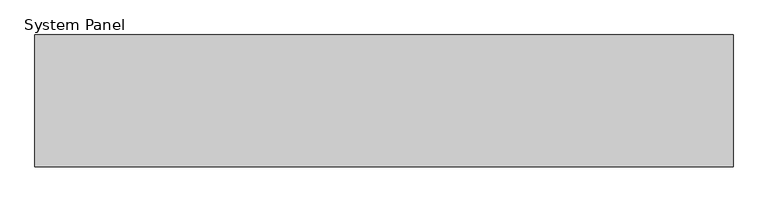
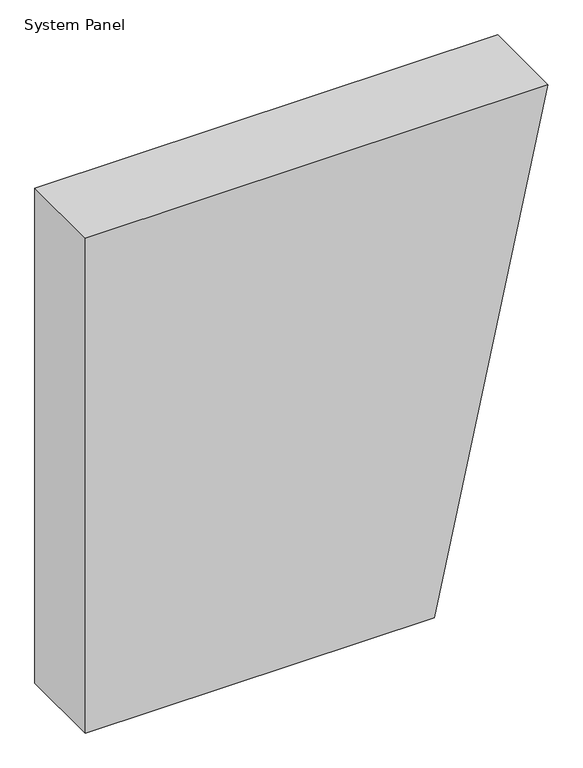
"""IFC4 building model written with IfcOpenShell, lengths in millimetres: plate geometry, System Panel : Equitilt 200mm Horizontal - Plain RHEA - EPS-FR."""

import ifcopenshell
import ifcopenshell.guid

model = None  # the IFC model being written
_history = None  # IfcOwnerHistory: only IFC2X3 demands one
_inside = {}  # id of a spatial element -> (the spatial element, [elements in it])
_under = {}  # id of a project, library or spatial element -> (it, [spatial elements below it])
_declared = {}  # id of a project -> (the project, [libraries it declares])
_typed = {}  # id of a type object -> (the type object, [elements of that type])
_made_of = {}  # id of a material, layer set ... -> (it, [elements and type objects made of it])


def new_model(schema):
    """Start an empty IFC model of exactly this schema.

    Asked for "IFC4X3", IfcOpenShell would pick the latest addendum, in which some entities
    have other attributes; the version numbers below select the first issue.
    IFC2X3 requires an IfcOwnerHistory on every rooted entity: one is made here for all.
    """
    global model, _history
    if schema == "IFC4X3":
        model = ifcopenshell.file(schema_version=(4, 3, 0, 0))
    else:
        model = ifcopenshell.file(schema=schema)
    _inside.clear()
    _under.clear()
    _declared.clear()
    _typed.clear()
    _made_of.clear()
    _history = None
    if model.schema == "IFC2X3":
        org = make("IfcOrganization", Name="unknown")
        user = make(
            "IfcPersonAndOrganization",
            ThePerson=make("IfcPerson", FamilyName="unknown"),
            TheOrganization=org,
        )
        app = make(
            "IfcApplication",
            ApplicationDeveloper=org,
            Version="unknown",
            ApplicationFullName="unknown",
            ApplicationIdentifier="unknown",
        )
        _history = make(
            "IfcOwnerHistory",
            OwningUser=user,
            OwningApplication=app,
            ChangeAction="ADDED",
            CreationDate=0,
        )
    return model


def make(cls, **values):
    """One entity of the class cls with the attributes given. An attribute that is None is left unset."""
    return model.create_entity(
        cls, **{name: value for name, value in values.items() if value is not None}
    )


def rooted(cls, **values):
    """An entity with a GlobalId (a new one), such as an element, a storey or a relation."""
    return make(cls, GlobalId=ifcopenshell.guid.new(), OwnerHistory=_history, **values)


def si_unit(unit_type, name, prefix=None):
    """IfcSIUnit, for example si_unit("LENGTHUNIT", "METRE", prefix="MILLI")."""
    return make("IfcSIUnit", UnitType=unit_type, Prefix=prefix, Name=name)


def assignment(units):
    """IfcUnitAssignment: the units of a project."""
    return None if units is None else make("IfcUnitAssignment", Units=units)


def point(xyz):
    """IfcCartesianPoint."""
    return None if xyz is None else make("IfcCartesianPoint", Coordinates=xyz)


def direction(xyz):
    """IfcDirection."""
    return None if xyz is None else make("IfcDirection", DirectionRatios=xyz)


def frame(location, z_axis=None, x_axis=None):
    """IfcAxis2Placement3D, a coordinate frame: its origin and axes. An axis left out is left unset."""
    return make(
        "IfcAxis2Placement3D",
        Location=point(location),
        Axis=direction(z_axis),
        RefDirection=direction(x_axis),
    )


def origin():
    """The frame at (0, 0, 0) with its axes left unset."""
    return frame((0.0, 0.0, 0.0))


def place(relative_to, where):
    """IfcLocalPlacement: puts the frame where relative to a parent placement (None: the world)."""
    return make(
        "IfcLocalPlacement", PlacementRelTo=relative_to, RelativePlacement=where
    )


def context(
    kind, dimensions, precision=None, world=None, true_north=None, identifier=None
):
    """IfcGeometricRepresentationContext, for example the 3D "Model" context."""
    return make(
        "IfcGeometricRepresentationContext",
        ContextIdentifier=identifier,
        ContextType=kind,
        CoordinateSpaceDimension=dimensions,
        Precision=precision,
        WorldCoordinateSystem=world,
        TrueNorth=true_north,
    )


def project(units=None, contexts=None):
    """IfcProject with its units and contexts."""
    return rooted(
        "IfcProject",
        Name="project",
        RepresentationContexts=contexts,
        UnitsInContext=assignment(units),
    )


def spatial(cls, under=None, at=None, **own):
    """A site, building, storey or space (cls), placed at a placement, below another one or the project."""
    s = rooted(cls, ObjectPlacement=at, **own)
    if under is not None:
        _under.setdefault(under.id(), (under, []))[1].append(s)
    return s


def polyline(points):
    """IfcPolyline through the points."""
    return make("IfcPolyline", Points=[point(p) for p in points])


def outline(outer, holes=None, kind="AREA"):
    """IfcArbitraryClosedProfileDef: a profile drawn as a closed curve; with holes, ...WithVoids."""
    if holes is None:
        return make("IfcArbitraryClosedProfileDef", ProfileType=kind, OuterCurve=outer)
    return make(
        "IfcArbitraryProfileDefWithVoids",
        ProfileType=kind,
        OuterCurve=outer,
        InnerCurves=holes,
    )


def extrude(swept, where, along, depth):
    """IfcExtrudedAreaSolid: the profile swept, set in the frame where, extruded along a direction by depth."""
    return make(
        "IfcExtrudedAreaSolid",
        SweptArea=swept,
        Position=where,
        ExtrudedDirection=direction(along),
        Depth=depth,
    )


def shape(context_of_items, identifier, shape_type, items):
    """IfcShapeRepresentation: the items that make up one representation, for example the "Body"."""
    return make(
        "IfcShapeRepresentation",
        ContextOfItems=context_of_items,
        RepresentationIdentifier=identifier,
        RepresentationType=shape_type,
        Items=items,
    )


def source(mapping_origin, context_of_items, identifier, shape_type, items):
    """IfcRepresentationMap: a shape defined once, which mapped items show again and again."""
    return make(
        "IfcRepresentationMap",
        MappingOrigin=mapping_origin,
        MappedRepresentation=shape(context_of_items, identifier, shape_type, items),
    )


def transform(
    local_origin,
    x_axis=None,
    y_axis=None,
    z_axis=None,
    scale=None,
    scale2=None,
    scale3=None,
    uniform=True,
):
    """IfcCartesianTransformationOperator3D, or its non-uniform kind. x_axis, y_axis, z_axis: its Axis1, 2, 3."""
    if uniform:
        return make(
            "IfcCartesianTransformationOperator3D",
            Axis1=direction(x_axis),
            Axis2=direction(y_axis),
            LocalOrigin=point(local_origin),
            Scale=scale,
            Axis3=direction(z_axis),
        )
    return make(
        "IfcCartesianTransformationOperator3DnonUniform",
        Axis1=direction(x_axis),
        Axis2=direction(y_axis),
        LocalOrigin=point(local_origin),
        Scale=scale,
        Axis3=direction(z_axis),
        Scale2=scale2,
        Scale3=scale3,
    )


def mapped(mapping_source, mapping_target):
    """IfcMappedItem: shows the shape of a source again, moved by a transform."""
    return make(
        "IfcMappedItem", MappingSource=mapping_source, MappingTarget=mapping_target
    )


def made_of(thing, what):
    """Note that an element or type object is made of a material, layer set ...; save() writes the relation."""
    if what is not None:
        _made_of.setdefault(what.id(), (what, []))[1].append(thing)
    return thing


def element(
    cls,
    number,
    at=None,
    inside=None,
    cuts=None,
    type_object=None,
    material=None,
    context=None,
    identifier="Body",
    shape_type=None,
    held_by="IfcProductDefinitionShape",
    body=None,
    shapes=None,
    **own,
):
    """One element of the class cls, such as IfcWall. Its Tag is "e" and its number.

    at: its placement. inside: the storey or other place that contains it. cuts: it is an
    opening in that element (IfcRelVoidsElement). A single representation is given by context,
    identifier, shape_type and body (its items); several are given by shapes. held_by: the class
    of the entity that holds the representations. save() writes the other relations.
    """
    e = rooted(cls, Tag="e%d" % number, ObjectPlacement=at, **own)
    if body is not None:
        shapes = [shape(context, identifier, shape_type, body)]
    if shapes is not None:
        e.Representation = make(held_by, Representations=shapes)
    if inside is not None:
        _inside.setdefault(inside.id(), (inside, []))[1].append(e)
    if cuts is not None:
        rooted(
            "IfcRelVoidsElement", RelatingBuildingElement=cuts, RelatedOpeningElement=e
        )
    if type_object is not None:
        _typed.setdefault(type_object.id(), (type_object, []))[1].append(e)
    return made_of(e, material)


def aggregate(whole, parts):
    """IfcRelAggregates: a whole, such as a stair, and the parts it consists of."""
    return rooted("IfcRelAggregates", RelatingObject=whole, RelatedObjects=parts)


def save(model, path):
    """Write the relations noted so far, then the file.

    IfcRelAggregates (storeys below a building ...), IfcRelContainedInSpatialStructure (elements
    in a storey), IfcRelDefinesByType, IfcRelAssociatesMaterial and IfcRelDeclares: one each for
    every whole, place, type object, material and project.
    """
    for whole, parts in _under.values():
        aggregate(whole, parts)
    for where, things in _inside.values():
        rooted(
            "IfcRelContainedInSpatialStructure",
            RelatedElements=things,
            RelatingStructure=where,
        )
    for kind, things in _typed.values():
        rooted("IfcRelDefinesByType", RelatedObjects=things, RelatingType=kind)
    for what, things in _made_of.values():
        rooted("IfcRelAssociatesMaterial", RelatedObjects=things, RelatingMaterial=what)
    for by, libraries in _declared.values():
        rooted("IfcRelDeclares", RelatingContext=by, RelatedDefinitions=libraries)
    model.write(path)


def system_panel_c71e2b66(model_context):
    return source(origin(), model_context, "Body", "SweptSolid", [
        extrude(outline(polyline([(0.0, -530.4358309), (0.0, 269.5641691), (1200.0, 530.4358309), (1200.0, -530.4358309), (0.0, -530.4358309)])), frame((0.0, -200.0, 0.0), z_axis=(0.0, 1.0, 0.0), x_axis=(0.0, 0.0, 1.0)), (0.0, 0.0, 1.0), 200.0),
    ])


if __name__ == "__main__":
    model = new_model("IFC4")
    model_context = context("Model", 3, world=origin())
    ifc_project = project(units=[si_unit("LENGTHUNIT", "METRE", prefix="MILLI")], contexts=[model_context])
    site = spatial("IfcSite", under=ifc_project)
    building = spatial("IfcBuilding", under=site)
    placement = place(None, origin())
    system_panel_shape = system_panel_c71e2b66(model_context)
    element("IfcPlate", 1, ObjectType="System Panel : Equitilt 200mm Horizontal - Plain RHEA - EPS-FR", at=placement, inside=building, context=model_context, shape_type="MappedRepresentation", body=[
        mapped(system_panel_shape, transform((0.0, 0.0, 0.0), x_axis=(1.0, 0.0, 0.0), y_axis=(0.0, 1.0, 0.0), z_axis=(0.0, 0.0, 1.0))),
    ])
    save(model, "model.ifc")
